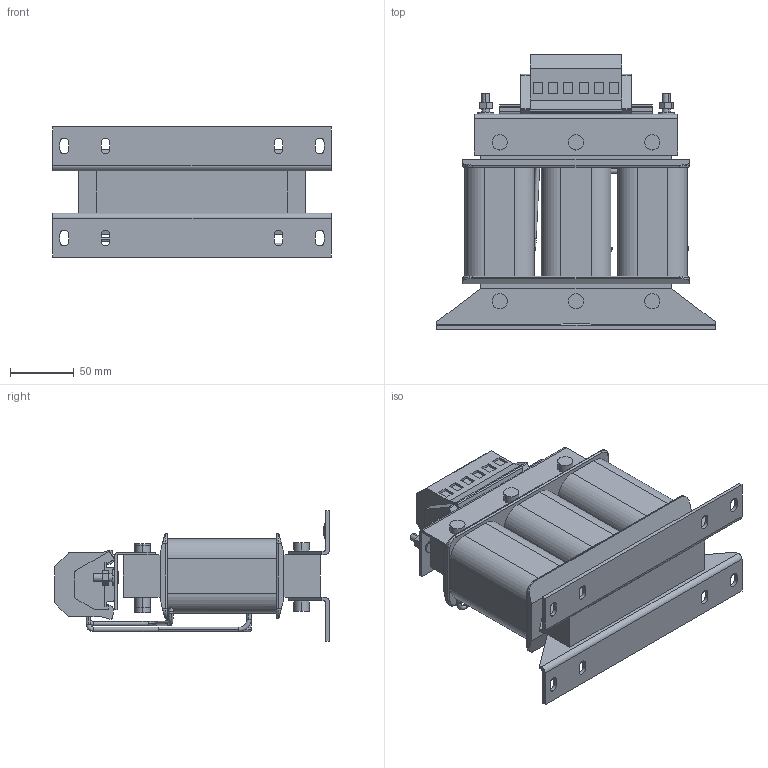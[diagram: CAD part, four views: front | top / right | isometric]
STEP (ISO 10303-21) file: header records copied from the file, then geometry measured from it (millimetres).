
FILE_DESCRIPTION (( 'STEP AP214' ), '1' );
FILE_NAME ('00Z1FX4-0017.STEP', '2022-08-16T07:23:04', ( '' ), ( '' ), 'SwSTEP 2.0', 'SolidWorks 2022', '' );
FILE_SCHEMA (( 'AUTOMOTIVE_DESIGN' ));
Length unit declared in the file: centimetre
Products named in the file (1): 00Z1FX4-0017
Bounding box: 219 x 216.1 x 102.3 mm (x, y, z)
Volume: 1481237.3 mm3; surface area: 194063.4 mm2
Topology: 1 solids, 1 shells, 479 faces, 1258 edges, 816 vertices
Faces by surface type: plane 233, cylinder 175, torus 46, bspline 25
Entity records: 17231 total; most frequent: CARTESIAN_POINT 5089, ORIENTED_EDGE 2516, DIRECTION 2430, EDGE_CURVE 1258, AXIS2_PLACEMENT_3D 869, VERTEX_POINT 816, LINE 692, VECTOR 692
